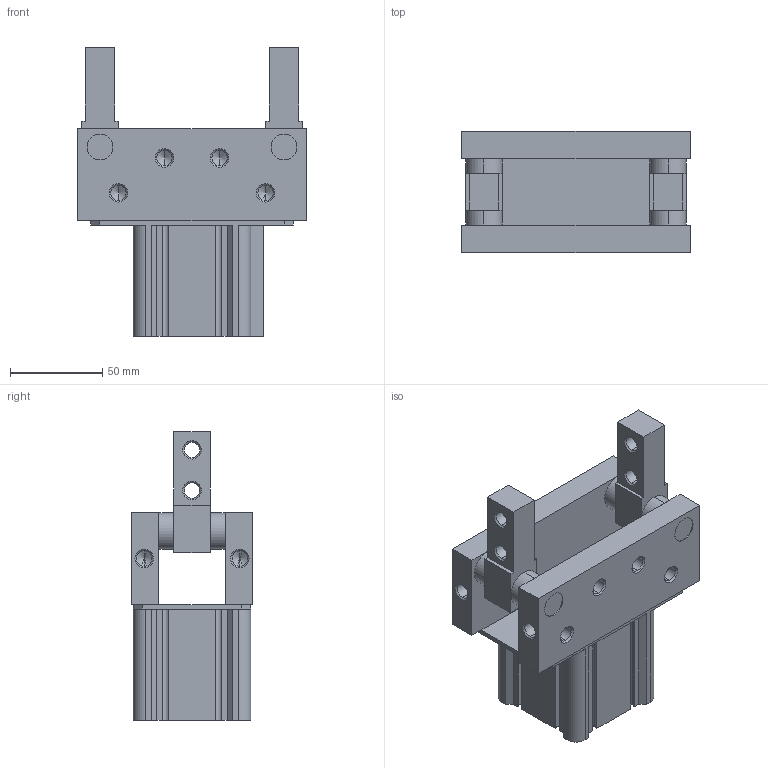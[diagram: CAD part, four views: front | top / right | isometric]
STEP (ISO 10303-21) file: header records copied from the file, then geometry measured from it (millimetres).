
FILE_DESCRIPTION (( 'STEP AP203' ), '1' );
FILE_NAME ('CHT2-50D.STEP', '2020-03-03T19:29:18', ( '' ), ( '' ), 'SwSTEP 2.0', 'SolidWorks 2019', '' );
FILE_SCHEMA (( 'CONFIG_CONTROL_DESIGN' ));
Length unit declared in the file: millimetre
Products named in the file (1): CHT2-50D
Bounding box: 124 x 66 x 157 mm (x, y, z)
Volume: 463104.5 mm3; surface area: 87399 mm2
Topology: 3 solids, 3 shells, 276 faces, 698 edges, 414 vertices
Faces by surface type: plane 98, cylinder 90, cone 88
Entity records: 8067 total; most frequent: DIRECTION 1448, CARTESIAN_POINT 1353, ORIENTED_EDGE 1324, EDGE_CURVE 662, AXIS2_PLACEMENT_3D 509, VECTOR 430, LINE 430, VERTEX_POINT 414
